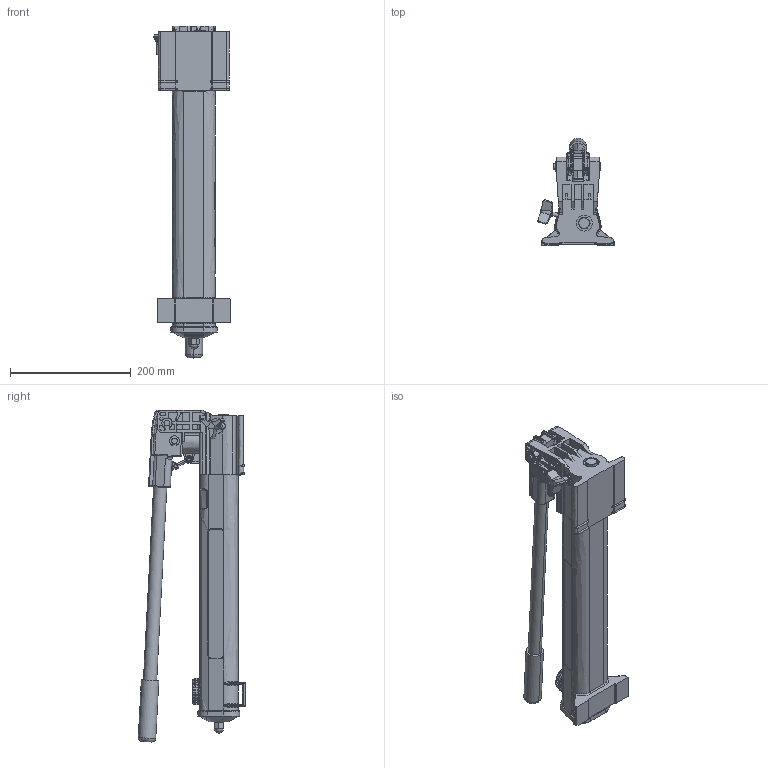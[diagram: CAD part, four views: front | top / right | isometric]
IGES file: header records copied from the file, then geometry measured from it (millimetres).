
Start section:  PTC IGES file: P-392.igs
Global section: file name: P-392.igs; native system: Creo Parametric by PTC Inc.; preprocessor: 2020454; author: mike.ward; organization: Unknown; date: 20210715.151323; units: inch
Bounding box: 126.87 x 178.03 x 550.34 mm (x, y, z)
Surface area: 454339.1 mm2 (no closed solid volume)
Topology: 0 solids, 0 shells, 2893 faces, 15226 edges, 15208 vertices
Faces by surface type: bspline 1755, revolution 1136, extrusion 2
